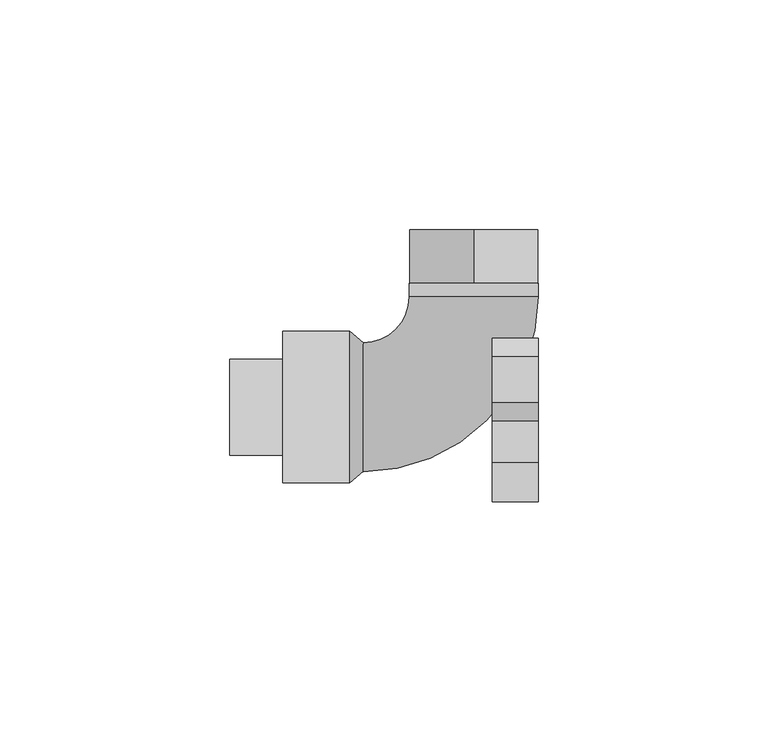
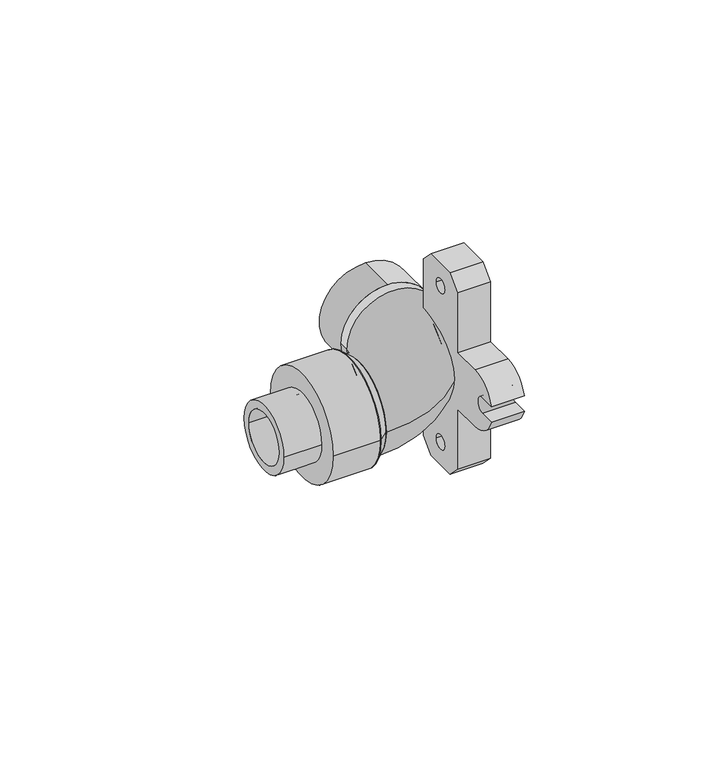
"""IFC4 building model written with IfcOpenShell, lengths in millimetres: pipe fitting geometry, 42_Угольник комбинированный с креплением НР : Белый цвет."""

import ifcopenshell
import ifcopenshell.guid

model = None  # the IFC model being written
_history = None  # IfcOwnerHistory: only IFC2X3 demands one
_inside = {}  # id of a spatial element -> (the spatial element, [elements in it])
_under = {}  # id of a project, library or spatial element -> (it, [spatial elements below it])
_declared = {}  # id of a project -> (the project, [libraries it declares])
_typed = {}  # id of a type object -> (the type object, [elements of that type])
_made_of = {}  # id of a material, layer set ... -> (it, [elements and type objects made of it])


def new_model(schema):
    """Start an empty IFC model of exactly this schema.

    Asked for "IFC4X3", IfcOpenShell would pick the latest addendum, in which some entities
    have other attributes; the version numbers below select the first issue.
    IFC2X3 requires an IfcOwnerHistory on every rooted entity: one is made here for all.
    """
    global model, _history
    if schema == "IFC4X3":
        model = ifcopenshell.file(schema_version=(4, 3, 0, 0))
    else:
        model = ifcopenshell.file(schema=schema)
    _inside.clear()
    _under.clear()
    _declared.clear()
    _typed.clear()
    _made_of.clear()
    _history = None
    if model.schema == "IFC2X3":
        org = make("IfcOrganization", Name="unknown")
        user = make(
            "IfcPersonAndOrganization",
            ThePerson=make("IfcPerson", FamilyName="unknown"),
            TheOrganization=org,
        )
        app = make(
            "IfcApplication",
            ApplicationDeveloper=org,
            Version="unknown",
            ApplicationFullName="unknown",
            ApplicationIdentifier="unknown",
        )
        _history = make(
            "IfcOwnerHistory",
            OwningUser=user,
            OwningApplication=app,
            ChangeAction="ADDED",
            CreationDate=0,
        )
    return model


def make(cls, **values):
    """One entity of the class cls with the attributes given. An attribute that is None is left unset."""
    return model.create_entity(
        cls, **{name: value for name, value in values.items() if value is not None}
    )


def rooted(cls, **values):
    """An entity with a GlobalId (a new one), such as an element, a storey or a relation."""
    return make(cls, GlobalId=ifcopenshell.guid.new(), OwnerHistory=_history, **values)


def si_unit(unit_type, name, prefix=None):
    """IfcSIUnit, for example si_unit("LENGTHUNIT", "METRE", prefix="MILLI")."""
    return make("IfcSIUnit", UnitType=unit_type, Prefix=prefix, Name=name)


def assignment(units):
    """IfcUnitAssignment: the units of a project."""
    return None if units is None else make("IfcUnitAssignment", Units=units)


def point(xyz):
    """IfcCartesianPoint."""
    return None if xyz is None else make("IfcCartesianPoint", Coordinates=xyz)


def direction(xyz):
    """IfcDirection."""
    return None if xyz is None else make("IfcDirection", DirectionRatios=xyz)


def frame(location, z_axis=None, x_axis=None):
    """IfcAxis2Placement3D, a coordinate frame: its origin and axes. An axis left out is left unset."""
    return make(
        "IfcAxis2Placement3D",
        Location=point(location),
        Axis=direction(z_axis),
        RefDirection=direction(x_axis),
    )


def frame_2d(location, x_axis=None):
    """IfcAxis2Placement2D, a coordinate frame in the plane: its origin and x axis."""
    return make(
        "IfcAxis2Placement2D", Location=point(location), RefDirection=direction(x_axis)
    )


def origin():
    """The frame at (0, 0, 0) with its axes left unset."""
    return frame((0.0, 0.0, 0.0))


def origin_2d():
    """The frame at (0, 0) in the plane with its x axis left unset."""
    return frame_2d((0.0, 0.0))


def place(relative_to, where):
    """IfcLocalPlacement: puts the frame where relative to a parent placement (None: the world)."""
    return make(
        "IfcLocalPlacement", PlacementRelTo=relative_to, RelativePlacement=where
    )


def context(
    kind, dimensions, precision=None, world=None, true_north=None, identifier=None
):
    """IfcGeometricRepresentationContext, for example the 3D "Model" context."""
    return make(
        "IfcGeometricRepresentationContext",
        ContextIdentifier=identifier,
        ContextType=kind,
        CoordinateSpaceDimension=dimensions,
        Precision=precision,
        WorldCoordinateSystem=world,
        TrueNorth=true_north,
    )


def project(units=None, contexts=None):
    """IfcProject with its units and contexts."""
    return rooted(
        "IfcProject",
        Name="project",
        RepresentationContexts=contexts,
        UnitsInContext=assignment(units),
    )


def spatial(cls, under=None, at=None, **own):
    """A site, building, storey or space (cls), placed at a placement, below another one or the project."""
    s = rooted(cls, ObjectPlacement=at, **own)
    if under is not None:
        _under.setdefault(under.id(), (under, []))[1].append(s)
    return s


def polyline(points):
    """IfcPolyline through the points."""
    return make("IfcPolyline", Points=[point(p) for p in points])


def circle_curve(where, radius):
    """IfcCircle in the frame where."""
    return make("IfcCircle", Position=where, Radius=radius)


def ellipse_curve(where, semi_axis1, semi_axis2):
    """IfcEllipse in the frame where."""
    return make(
        "IfcEllipse", Position=where, SemiAxis1=semi_axis1, SemiAxis2=semi_axis2
    )


def trimmed(basis, trim1, trim2, sense, master):
    """IfcTrimmedCurve: the piece of a basis curve between two trims."""
    return make(
        "IfcTrimmedCurve",
        BasisCurve=basis,
        Trim1=trim1,
        Trim2=trim2,
        SenseAgreement=sense,
        MasterRepresentation=master,
    )


def segment(curve, same_sense, transition):
    """IfcCompositeCurveSegment."""
    return make(
        "IfcCompositeCurveSegment",
        Transition=transition,
        SameSense=same_sense,
        ParentCurve=curve,
    )


def composite_curve(segments, self_intersect=None):
    """IfcCompositeCurve: segments joined end to end."""
    return make("IfcCompositeCurve", Segments=segments, SelfIntersect=self_intersect)


def outline(outer, holes=None, kind="AREA"):
    """IfcArbitraryClosedProfileDef: a profile drawn as a closed curve; with holes, ...WithVoids."""
    if holes is None:
        return make("IfcArbitraryClosedProfileDef", ProfileType=kind, OuterCurve=outer)
    return make(
        "IfcArbitraryProfileDefWithVoids",
        ProfileType=kind,
        OuterCurve=outer,
        InnerCurves=holes,
    )


def extrude(swept, where, along, depth):
    """IfcExtrudedAreaSolid: the profile swept, set in the frame where, extruded along a direction by depth."""
    return make(
        "IfcExtrudedAreaSolid",
        SweptArea=swept,
        Position=where,
        ExtrudedDirection=direction(along),
        Depth=depth,
    )


def shape(context_of_items, identifier, shape_type, items):
    """IfcShapeRepresentation: the items that make up one representation, for example the "Body"."""
    return make(
        "IfcShapeRepresentation",
        ContextOfItems=context_of_items,
        RepresentationIdentifier=identifier,
        RepresentationType=shape_type,
        Items=items,
    )


def source(mapping_origin, context_of_items, identifier, shape_type, items):
    """IfcRepresentationMap: a shape defined once, which mapped items show again and again."""
    return make(
        "IfcRepresentationMap",
        MappingOrigin=mapping_origin,
        MappedRepresentation=shape(context_of_items, identifier, shape_type, items),
    )


def transform(
    local_origin,
    x_axis=None,
    y_axis=None,
    z_axis=None,
    scale=None,
    scale2=None,
    scale3=None,
    uniform=True,
):
    """IfcCartesianTransformationOperator3D, or its non-uniform kind. x_axis, y_axis, z_axis: its Axis1, 2, 3."""
    if uniform:
        return make(
            "IfcCartesianTransformationOperator3D",
            Axis1=direction(x_axis),
            Axis2=direction(y_axis),
            LocalOrigin=point(local_origin),
            Scale=scale,
            Axis3=direction(z_axis),
        )
    return make(
        "IfcCartesianTransformationOperator3DnonUniform",
        Axis1=direction(x_axis),
        Axis2=direction(y_axis),
        LocalOrigin=point(local_origin),
        Scale=scale,
        Axis3=direction(z_axis),
        Scale2=scale2,
        Scale3=scale3,
    )


def mapped(mapping_source, mapping_target):
    """IfcMappedItem: shows the shape of a source again, moved by a transform."""
    return make(
        "IfcMappedItem", MappingSource=mapping_source, MappingTarget=mapping_target
    )


def made_of(thing, what):
    """Note that an element or type object is made of a material, layer set ...; save() writes the relation."""
    if what is not None:
        _made_of.setdefault(what.id(), (what, []))[1].append(thing)
    return thing


def element(
    cls,
    number,
    at=None,
    inside=None,
    cuts=None,
    type_object=None,
    material=None,
    context=None,
    identifier="Body",
    shape_type=None,
    held_by="IfcProductDefinitionShape",
    body=None,
    shapes=None,
    **own,
):
    """One element of the class cls, such as IfcWall. Its Tag is "e" and its number.

    at: its placement. inside: the storey or other place that contains it. cuts: it is an
    opening in that element (IfcRelVoidsElement). A single representation is given by context,
    identifier, shape_type and body (its items); several are given by shapes. held_by: the class
    of the entity that holds the representations. save() writes the other relations.
    """
    e = rooted(cls, Tag="e%d" % number, ObjectPlacement=at, **own)
    if body is not None:
        shapes = [shape(context, identifier, shape_type, body)]
    if shapes is not None:
        e.Representation = make(held_by, Representations=shapes)
    if inside is not None:
        _inside.setdefault(inside.id(), (inside, []))[1].append(e)
    if cuts is not None:
        rooted(
            "IfcRelVoidsElement", RelatingBuildingElement=cuts, RelatedOpeningElement=e
        )
    if type_object is not None:
        _typed.setdefault(type_object.id(), (type_object, []))[1].append(e)
    return made_of(e, material)


def aggregate(whole, parts):
    """IfcRelAggregates: a whole, such as a stair, and the parts it consists of."""
    return rooted("IfcRelAggregates", RelatingObject=whole, RelatedObjects=parts)


def save(model, path):
    """Write the relations noted so far, then the file.

    IfcRelAggregates (storeys below a building ...), IfcRelContainedInSpatialStructure (elements
    in a storey), IfcRelDefinesByType, IfcRelAssociatesMaterial and IfcRelDeclares: one each for
    every whole, place, type object, material and project.
    """
    for whole, parts in _under.values():
        aggregate(whole, parts)
    for where, things in _inside.values():
        rooted(
            "IfcRelContainedInSpatialStructure",
            RelatedElements=things,
            RelatingStructure=where,
        )
    for kind, things in _typed.values():
        rooted("IfcRelDefinesByType", RelatedObjects=things, RelatingType=kind)
    for what, things in _made_of.values():
        rooted("IfcRelAssociatesMaterial", RelatedObjects=things, RelatingMaterial=what)
    for by, libraries in _declared.values():
        rooted("IfcRelDeclares", RelatingContext=by, RelatedDefinitions=libraries)
    model.write(path)


def plane_surface(at):
    """IfcPlane: the flat surface through the origin of the frame at, square to its z axis."""
    return make("IfcPlane", Position=at)


def revolved_surface(curve, axis_point, axis_direction):
    """IfcSurfaceOfRevolution: the curve turned about the line through axis_point along axis_direction."""
    return make(
        "IfcSurfaceOfRevolution",
        SweptCurve=make("IfcArbitraryOpenProfileDef", ProfileType="CURVE", Curve=curve),
        AxisPosition=make("IfcAxis1Placement", Location=point(axis_point), Axis=direction(axis_direction)),
    )


def advanced_brep(points, edges, surfaces, faces):
    """IfcAdvancedBrep: a solid bounded by faces that lie on surfaces and meet in shared edges.

    An edge is (start, end): straight between two places in points (the first is 0);
    or (start, end, curve); or (start, end, curve, False) where it runs against its curve.
    A face is (place in surfaces, loops), or (place, loops, False) where it looks against
    its surface's normal. A loop lists edges by number (the first is 1), with a minus sign
    where the edge is run from its end to its start. The first loop is the outer one.
    """
    corners = [point(p) for p in points]
    vertices = [make("IfcVertexPoint", VertexGeometry=c) for c in corners]
    made = []
    for start, end, *more in edges:
        made.append(
            make(
                "IfcEdgeCurve",
                EdgeStart=vertices[start],
                EdgeEnd=vertices[end],
                EdgeGeometry=more[0] if more else make("IfcPolyline", Points=[corners[start], corners[end]]),
                SameSense=more[1] if len(more) > 1 else True,
            )
        )
    hull = []
    for where, loops, *sense in faces:
        bounds = []
        for j, loop in enumerate(loops):
            ring = [make("IfcOrientedEdge", EdgeElement=made[abs(k) - 1], Orientation=k > 0) for k in loop]
            bounds.append(
                make(
                    "IfcFaceOuterBound" if j == 0 else "IfcFaceBound",
                    Bound=make("IfcEdgeLoop", EdgeList=ring),
                    Orientation=True,
                )
            )
        hull.append(make("IfcAdvancedFace", Bounds=bounds, FaceSurface=surfaces[where], SameSense=sense[0] if sense else True))
    return make("IfcAdvancedBrep", Outer=make("IfcClosedShell", CfsFaces=hull))


def pipe_fitting_7f82ed3a(model_context):
    return source(origin(), model_context, "Body", "SolidModel", [
        extrude(outline(composite_curve([segment(polyline([(15.0513718, -28.25), (11.0513718, -32.25), (1.0513718, -32.25), (-2.9486282, -28.25), (-2.9486282, -9.0), (-11.9486282, -9.0)]), True, "CONTINUOUS"), segment(trimmed(circle_curve(frame_2d((-11.9486282, 0.0)), 9.0), [point((-11.9486282, -9.0))], [point((-20.5944365, -2.5))], False, "CARTESIAN"), True, "CONTINUOUS"), segment(polyline([(-20.5944365, -2.5), (-15.9486282, -2.5)]), True, "CONTINUOUS"), segment(trimmed(circle_curve(frame_2d((-15.9486282, 0.0)), 2.5), [point((-15.9486282, -2.5))], [point((-15.9486282, 2.5))], True, "CARTESIAN"), True, "CONTINUOUS"), segment(polyline([(-15.9486282, 2.5), (-20.5944365, 2.5)]), True, "CONTINUOUS"), segment(trimmed(circle_curve(frame_2d((-11.9486282, 0.0)), 9.0), [point((-20.5944365, 2.5))], [point((-11.9486282, 9.0))], False, "CARTESIAN"), True, "CONTINUOUS"), segment(polyline([(-11.9486282, 9.0), (-2.9486282, 9.0), (-2.9486282, 28.25), (1.0513718, 32.25), (11.0513718, 32.25), (15.0513718, 28.25), (15.0513718, -28.25)]), True, "CONTINUOUS")], self_intersect=False), holes=[composite_curve([segment(trimmed(circle_curve(frame_2d((6.0513718, 25.0)), 2.25), [point((3.8013718, 25.0))], [point((8.3013718, 25.0))], True, "CARTESIAN"), True, "CONTINUOUS"), segment(trimmed(circle_curve(frame_2d((6.0513718, 25.0)), 2.25), [point((8.3013718, 25.0))], [point((3.8013718, 25.0))], True, "CARTESIAN"), True, "CONTINUOUS")], self_intersect=False), composite_curve([segment(trimmed(circle_curve(frame_2d((6.0513718, -25.0)), 2.25), [point((3.8013718, -25.0))], [point((8.3013718, -25.0))], True, "CARTESIAN"), True, "CONTINUOUS"), segment(trimmed(circle_curve(frame_2d((6.0513718, -25.0)), 2.25), [point((8.3013718, -25.0))], [point((3.8013718, -25.0))], True, "CARTESIAN"), True, "CONTINUOUS")], self_intersect=False)]), frame((7.65, 0.0, 0.0), z_axis=(1.0, 0.0, 0.0), x_axis=(0.0, 1.0, 0.0)), (0.0, 0.0, 1.0), 10.0),
        extrude(outline(composite_curve([segment(trimmed(circle_curve(origin_2d(), 10.4), [point((-10.4, 0.0))], [point((10.4, 0.0))], False, "CARTESIAN"), True, "CONTINUOUS"), segment(trimmed(circle_curve(origin_2d(), 10.4), [point((10.4, 0.0))], [point((-10.4, 0.0))], False, "CARTESIAN"), True, "CONTINUOUS")], self_intersect=False), holes=[composite_curve([segment(trimmed(circle_curve(origin_2d(), 7.9), [point((-7.9, 0.0))], [point((7.9, 0.0))], True, "CARTESIAN"), True, "CONTINUOUS"), segment(trimmed(circle_curve(origin_2d(), 7.9), [point((7.9, 0.0))], [point((-7.9, 0.0))], True, "CARTESIAN"), True, "CONTINUOUS")], self_intersect=False)]), frame((-49.35, 0.0, 0.0), z_axis=(1.0, 0.0, 0.0), x_axis=(0.0, 1.0, 0.0)), (0.0, 0.0, 1.0), 11.5),
        advanced_brep(
        [(-10.35, 24.0, 0.0), (17.65, 24.0, 0.0), (-6.35, 24.0, 0.0), (13.65, 24.0, 0.0), (-20.35, 14.0, 0.0), (-20.35, -14.0, 0.0), (-20.35, 10.0, 0.0), (-20.35, -10.0, 0.0)],
        [
            (0, 1, circle_curve(frame((3.65, 24.0, 0.0), z_axis=(0.0, 1.0, 0.0), x_axis=(1.0, 0.0, 0.0)), 14.0)),
            (1, 0, circle_curve(frame((3.65, 24.0, 0.0), z_axis=(0.0, 1.0, 0.0), x_axis=(1.0, 0.0, 0.0)), 14.0)),
            (2, 3, circle_curve(frame((3.65, 24.0, 0.0), z_axis=(0.0, -1.0, 0.0), x_axis=(1.0, 0.0, 0.0)), 10.0)),
            (3, 2, circle_curve(frame((3.65, 24.0, 0.0), z_axis=(0.0, -1.0, 0.0), x_axis=(1.0, 0.0, 0.0)), 10.0)),
            (4, 5, circle_curve(frame((-20.35, 0.0, 0.0), z_axis=(-1.0, 0.0, 0.0), x_axis=(0.0, -1.0, 0.0)), 14.0)),
            (5, 4, circle_curve(frame((-20.35, 0.0, 0.0), z_axis=(-1.0, 0.0, 0.0), x_axis=(0.0, -1.0, 0.0)), 14.0)),
            (6, 7, circle_curve(frame((-20.35, 0.0, 0.0), z_axis=(1.0, 0.0, 0.0), x_axis=(0.0, -1.0, 0.0)), 10.0)),
            (7, 6, circle_curve(frame((-20.35, 0.0, 0.0), z_axis=(1.0, 0.0, 0.0), x_axis=(0.0, -1.0, 0.0)), 10.0)),
            (5, 1, circle_curve(frame((-20.35, 24.0, 0.0), z_axis=(0.0, 0.0, 1.0), x_axis=(1.0, 0.0, 0.0)), 38.0)),
            (0, 4, circle_curve(frame((-20.35, 24.0, 0.0), z_axis=(0.0, 0.0, -1.0), x_axis=(1.0, 0.0, 0.0)), 10.0)),
            (7, 3, circle_curve(frame((-20.35, 24.0, 0.0), z_axis=(0.0, 0.0, 1.0), x_axis=(1.0, 0.0, 0.0)), 34.0)),
            (2, 6, circle_curve(frame((-20.35, 24.0, 0.0), z_axis=(0.0, 0.0, -1.0), x_axis=(1.0, 0.0, 0.0)), 14.0)),
        ],
        [
            plane_surface(frame((3.65, 24.0, 0.0), z_axis=(0.0, 1.0, 0.0), x_axis=(0.0, 0.0, 1.0))),
            plane_surface(frame((-20.35, 0.0, 0.0), z_axis=(-1.0, 0.0, 0.0), x_axis=(0.0, 0.0, 1.0))),
            revolved_surface(trimmed(ellipse_curve(frame((3.65, 24.0, 0.0), z_axis=(0.0, 1.0, 0.0), x_axis=(1.0, 0.0, 0.0)), 14.0, 14.0), [point((-10.35, 24.0, 0.0))], [point((17.65, 24.0, 0.0))], True, "CARTESIAN"), (-20.35, 24.0, 0.0), (0.0, 0.0, -1.0)),
            revolved_surface(trimmed(ellipse_curve(frame((3.65, 24.0, 0.0), z_axis=(0.0, 1.0, 0.0), x_axis=(1.0, 0.0, 0.0)), 14.0, 14.0), [point((17.65, 24.0, 0.0))], [point((-10.35, 24.0, 0.0))], True, "CARTESIAN"), (-20.35, 24.0, 0.0), (0.0, 0.0, -1.0)),
            revolved_surface(trimmed(ellipse_curve(frame((3.65, 24.0, 0.0), z_axis=(0.0, -1.0, 0.0), x_axis=(1.0, 0.0, 0.0)), 10.0, 10.0), [point((-6.35, 24.0, 0.0))], [point((13.65, 24.0, 0.0))], True, "CARTESIAN"), (-20.35, 24.0, 0.0), (0.0, 0.0, -1.0)),
            revolved_surface(trimmed(ellipse_curve(frame((3.65, 24.0, 0.0), z_axis=(0.0, -1.0, 0.0), x_axis=(1.0, 0.0, 0.0)), 10.0, 10.0), [point((13.65, 24.0, 0.0))], [point((-6.35, 24.0, 0.0))], True, "CARTESIAN"), (-20.35, 24.0, 0.0), (0.0, 0.0, -1.0)),
        ],
        [
            (0, [[1, 2], [3, 4]]),
            (1, [[5, 6], [7, 8]]),
            (2, [[9, -1, 10, -6]]),
            (3, [[-10, -2, -9, -5]]),
            (4, [[11, -3, 12, -8]]),
            (5, [[-12, -4, -11, -7]]),
        ],
    ),
        advanced_brep(
        [(-20.35, -13.95, 0.0), (-20.35, 14.05, 0.0), (-20.35, 10.05, 0.0), (-20.35, -9.95, 0.0), (-23.35, -16.45, 0.0), (-23.35, 16.55, 0.0), (-23.35, -7.85, 0.0), (-23.35, 7.95, 0.0)],
        [
            (0, 1, circle_curve(frame((-20.35, 0.05, 0.0), z_axis=(1.0, 0.0, 0.0), x_axis=(0.0, -1.0, 0.0)), 14.0)),
            (1, 0, circle_curve(frame((-20.35, 0.05, 0.0), z_axis=(1.0, 0.0, 0.0), x_axis=(0.0, 1.0, 0.0)), 14.0)),
            (2, 3, circle_curve(frame((-20.35, 0.05, 0.0), z_axis=(-1.0, 0.0, -1.2355450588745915e-12), x_axis=(0.0, -1.0, 0.0)), 10.0)),
            (3, 2, circle_curve(frame((-20.35, 0.05, 0.0), z_axis=(-1.0, 0.0, -1.2355450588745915e-12), x_axis=(0.0, 1.0, 0.0)), 10.0)),
            (4, 5, circle_curve(frame((-23.35, 0.05, 0.0), z_axis=(-1.0, 0.0, 0.0), x_axis=(0.0, 1.0, 0.0)), 16.5)),
            (5, 4, circle_curve(frame((-23.35, 0.05, 0.0), z_axis=(-1.0, 0.0, 0.0), x_axis=(0.0, -1.0, 0.0)), 16.5)),
            (6, 7, circle_curve(frame((-23.35, 0.05, 0.0), z_axis=(1.0, 0.0, 1.2355450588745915e-12), x_axis=(0.0, -1.0, 0.0)), 7.9)),
            (7, 6, circle_curve(frame((-23.35, 0.05, 0.0), z_axis=(1.0, 0.0, 1.2355450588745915e-12), x_axis=(0.0, 1.0, 0.0)), 7.9)),
            (0, 4),
            (5, 1),
            (6, 3),
            (2, 7),
        ],
        [
            plane_surface(frame((-20.35, 0.05, 0.0), z_axis=(1.0, 0.0, 0.0), x_axis=(0.0, 0.0, -1.0))),
            plane_surface(frame((-23.35, 0.05, 0.0), z_axis=(-1.0, 0.0, 0.0), x_axis=(0.0, 0.0, -1.0))),
            revolved_surface(polyline([(-20.35, -13.95, 0.0), (-23.35, -16.45, 0.0)]), (-3.55, 0.05, 0.0), (-1.0, 0.0, 0.0)),
            revolved_surface(polyline([(-20.35, 14.05, 0.0), (-23.35, 16.55, 0.0)]), (-3.55, 0.05, 0.0), (-1.0, 0.0, 0.0)),
            revolved_surface(polyline([(-20.35, -9.95, 0.0), (-23.35, -7.8500000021, 0.0)]), (-34.6357143, 0.05, 0.0), (1.0, 0.0, 1.2355450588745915e-12)),
        ],
        [
            (0, [[1, 2], [3, 4]]),
            (1, [[5, 6], [7, 8]]),
            (2, [[-1, 9, -6, 10]]),
            (3, [[-2, -10, -5, -9]]),
            (4, [[11, -3, 12, -7]]),
            (4, [[-11, -8, -12, -4]]),
        ],
    ),
        extrude(outline(composite_curve([segment(trimmed(circle_curve(frame_2d((0.0, 3.65)), 14.0), [point((0.0, -10.35))], [point((0.0, 17.65))], False, "CARTESIAN"), True, "CONTINUOUS"), segment(trimmed(circle_curve(frame_2d((0.0, 3.65)), 14.0), [point((0.0, 17.65))], [point((0.0, -10.35))], False, "CARTESIAN"), True, "CONTINUOUS")], self_intersect=False), holes=[composite_curve([segment(trimmed(circle_curve(frame_2d((0.0, 3.65)), 10.0), [point((0.0, 13.65))], [point((0.0, -6.35))], True, "CARTESIAN"), True, "CONTINUOUS"), segment(trimmed(circle_curve(frame_2d((0.0, 3.65)), 10.0), [point((0.0, -6.35))], [point((0.0, 13.65))], True, "CARTESIAN"), True, "CONTINUOUS")], self_intersect=False)]), frame((0.0, 24.0, 0.0), z_axis=(0.0, 1.0, 0.0), x_axis=(0.0, 0.0, 1.0)), (0.0, 0.0, 1.0), 3.0),
        extrude(outline(composite_curve([segment(trimmed(circle_curve(frame_2d((0.0, 3.65)), 14.0), [point((-14.0, 3.65))], [point((14.0, 3.65))], False, "CARTESIAN"), True, "CONTINUOUS"), segment(trimmed(circle_curve(frame_2d((0.0, 3.65)), 14.0), [point((14.0, 3.65))], [point((-14.0, 3.65))], False, "CARTESIAN"), True, "CONTINUOUS")], self_intersect=False), holes=[composite_curve([segment(trimmed(circle_curve(frame_2d((0.0, 3.65)), 10.0), [point((-10.0, 3.65))], [point((10.0, 3.65))], True, "CARTESIAN"), True, "CONTINUOUS"), segment(trimmed(circle_curve(frame_2d((0.0, 3.65)), 10.0), [point((10.0, 3.65))], [point((-10.0, 3.65))], True, "CARTESIAN"), True, "CONTINUOUS")], self_intersect=False)]), frame((0.0, 27.0, 0.0), z_axis=(0.0, 1.0, 0.0), x_axis=(0.0, 0.0, 1.0)), (0.0, 0.0, 1.0), 11.55),
        extrude(outline(composite_curve([segment(trimmed(circle_curve(frame_2d((0.05, 0.0)), 16.5), [point((-16.45, 0.0))], [point((16.55, 0.0))], False, "CARTESIAN"), True, "CONTINUOUS"), segment(trimmed(circle_curve(frame_2d((0.05, 0.0)), 16.5), [point((16.55, 0.0))], [point((-16.45, 0.0))], False, "CARTESIAN"), True, "CONTINUOUS")], self_intersect=False), holes=[composite_curve([segment(trimmed(circle_curve(frame_2d((0.05, 0.0)), 7.9), [point((-7.85, 0.0))], [point((7.95, 0.0))], True, "CARTESIAN"), True, "CONTINUOUS"), segment(trimmed(circle_curve(frame_2d((0.05, 0.0)), 7.9), [point((7.95, 0.0))], [point((-7.85, 0.0))], True, "CARTESIAN"), True, "CONTINUOUS")], self_intersect=False)]), frame((-37.85, 0.0, 0.0), z_axis=(1.0, 0.0, 0.0), x_axis=(0.0, 1.0, 0.0)), (0.0, 0.0, 1.0), 14.5),
    ])


if __name__ == "__main__":
    model = new_model("IFC4")
    model_context = context("Model", 3, world=origin())
    ifc_project = project(units=[si_unit("LENGTHUNIT", "METRE", prefix="MILLI")], contexts=[model_context])
    site = spatial("IfcSite", under=ifc_project)
    building = spatial("IfcBuilding", under=site)
    placement = place(None, origin())
    pipe_fitting_shape = pipe_fitting_7f82ed3a(model_context)
    element("IfcPipeFitting", 1, ObjectType="42_Угольник комбинированный с креплением НР : Белый цвет", at=placement, inside=building, context=model_context, shape_type="MappedRepresentation", body=[
        mapped(pipe_fitting_shape, transform((0.0, 0.0, 0.0), x_axis=(1.0, 0.0, 0.0), y_axis=(0.0, 1.0, 0.0), z_axis=(0.0, 0.0, 1.0))),
    ])
    save(model, "model.ifc")
